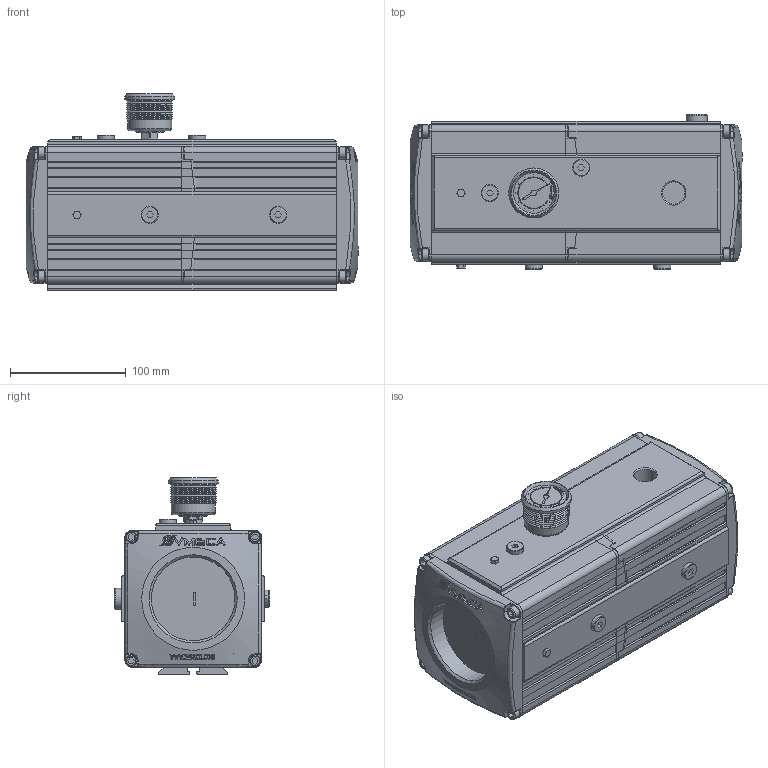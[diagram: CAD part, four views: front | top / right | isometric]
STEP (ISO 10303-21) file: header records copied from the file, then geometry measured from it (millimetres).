
FILE_DESCRIPTION( ( 'Unknown' ), '1' );
FILE_NAME( 'C:/Documents and Settings/Administrator/官帕 拳搁/3D Dimension/MPM303X5-03.stp', 'Unknown', ( 'Unknown' ), ( 'Unknown' ), 'PSStep 10.0', 'Unknown', ' ' );
FILE_SCHEMA( ( 'AUTOMOTIVE_DESIGN { 1 0 10303 214 1 1 1 1 }' ) );
Length unit declared in the file: millimetre
Products named in the file (12): Assem1; M6-Bolt_3; END CAP-212_3; VTP-M5_3; red_3; VTP18_3; VTP14_3; Vacuum Gauge_3; END CAP-2; Body(re1)(dim); VTP-M5; VTP18
Bounding box: 287 x 134 x 169.5 mm (x, y, z)
Surface area: 659376.8 mm2
Topology: 38 solids, 38 shells, 3212 faces, 8161 edges, 5234 vertices
Faces by surface type: plane 1865, cylinder 831, cone 193, sphere 96, bspline 96, extrusion 84, torus 43, revolution 4
Full cylindrical faces by diameter (mm): 0.274 x2, 0.884 x4, 1.008 x9, 4.075 x4, 4.2 x20, 4.552 x4, 6 x9, 6.337 x4, 6.5 x16, 6.8 x8, 8.8 x10, 9.6 x2, 9.8 x6, 10 x9, 11.9 x2, 12.7 x2, 14.8 x6, 18.2 x2, 19.2 x2, 23 x2, 24.6 x2, 38 x2, 43.2 x2, 56.6 x2, 72.2 x2
Entity records: 62687 total; most frequent: CARTESIAN_POINT 14664, DIRECTION 7294, ORIENTED_EDGE 7276, EDGE_CURVE 3638, AXIS2_PLACEMENT_3D 2520, VERTEX_POINT 2414, VECTOR 2252, LINE 2210
